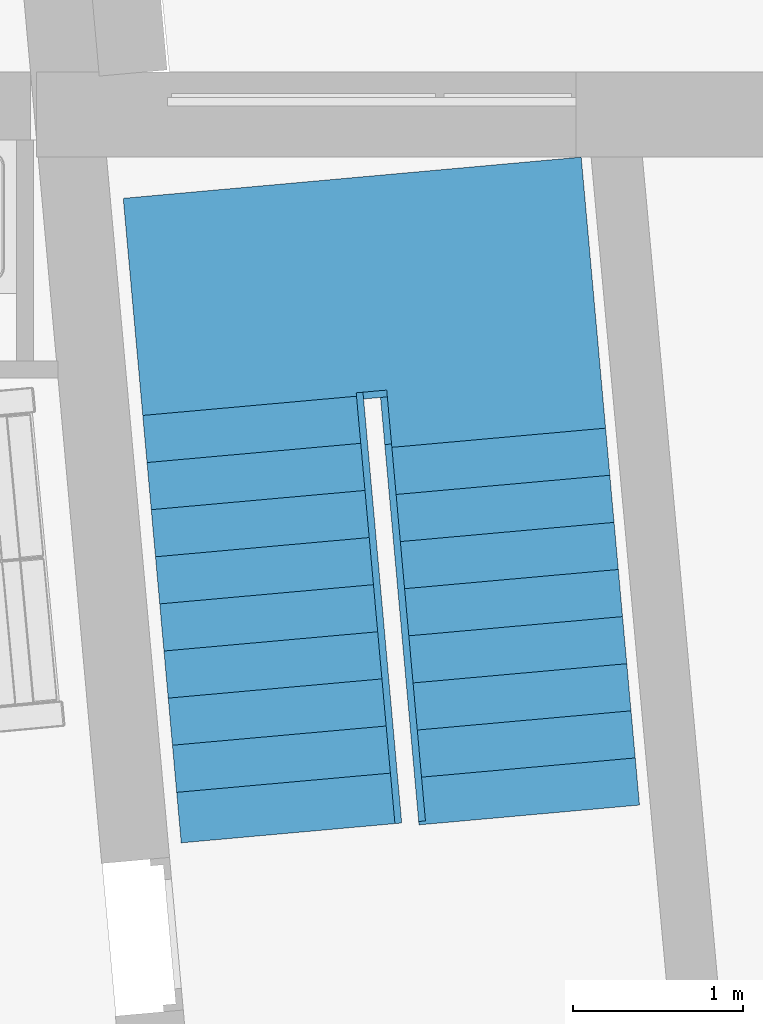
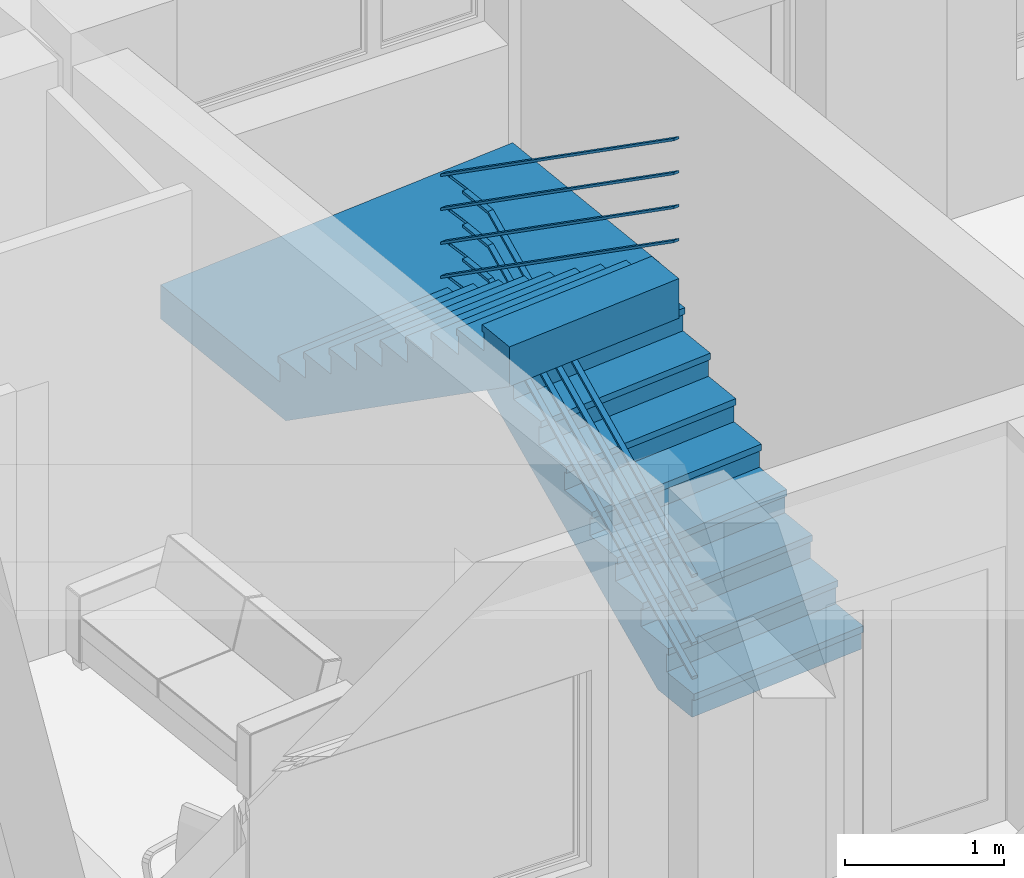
# One storey, part 27 of 36: 1 stair.
"""IFC2X3 building model written with IfcOpenShell, lengths in millimetres."""

from ifc_helpers import new_model, entity, si_unit, converted_unit, money_unit, direction, frame, origin_with_axes, place, context, subcontext, project, spatial, faceted_brep, material, element, save


model = new_model("IFC2X3")

# Units and contexts
model_context = context("Model", 3, precision=1e-05, world=origin_with_axes(), true_north=direction((0.0, 1.0)))
body_context = subcontext(model_context, "Body", "Model", "MODEL_VIEW")
ifc_project = project(units=[si_unit("LENGTHUNIT", "METRE", prefix="MILLI"), si_unit("AREAUNIT", "SQUARE_METRE"), si_unit("VOLUMEUNIT", "CUBIC_METRE"), converted_unit("PLANEANGLEUNIT", "DEGREE", entity("IfcPlaneAngleMeasure", 0.0174532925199), si_unit("PLANEANGLEUNIT", "RADIAN"), dimensions=[0, 0, 0, 0, 0, 0, 0]), si_unit("SOLIDANGLEUNIT", "STERADIAN"), money_unit("USD"), converted_unit("TIMEUNIT", "Year", entity("IfcTimeMeasure", 31556926.0), si_unit("TIMEUNIT", "SECOND"), dimensions=[0, 0, 0, 0, 0, 0, 0]), si_unit("MASSUNIT", "GRAM"), si_unit("THERMODYNAMICTEMPERATUREUNIT", "DEGREE_CELSIUS"), si_unit("LUMINOUSINTENSITYUNIT", "LUMEN")], contexts=[model_context])

# Site, building, storey
site_placement = place(None, origin_with_axes())
site = spatial("IfcSite", under=ifc_project, at=site_placement, Name="Site", CompositionType="ELEMENT")
building_placement = place(site_placement, origin_with_axes())
building = spatial("IfcBuilding", under=site, at=building_placement, Name="Building", CompositionType="ELEMENT")
storey_placement = place(building_placement, frame((0.0, 0.0, -3400.0), z_axis=(0.0, 0.0, 1.0), x_axis=(1.0, 0.0, 0.0)))
storey = spatial("IfcBuildingStorey", under=building, at=storey_placement, Name="1KORRUS", CompositionType="ELEMENT", Elevation=-3400.0)

# Stair
ifc_material = material(Name="50 %")
stair_placement = place(storey_placement, frame((-51198.3443132, -8924.32051157, 0.0), z_axis=(0.0, 0.0, 1.0), x_axis=(-0.0895981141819, 0.995978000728, 0.0)))
element("IfcStair", 1, at=stair_placement, inside=storey, material=ifc_material, Name="TR1", ObjectType="TR1", ShapeType="TWO_STRAIGHT_RUN_STAIR", context=body_context, shape_type="Brep", body=[
    faceted_brep([(373.459, 0.0, 0.0), (373.459, 1300.0, 0.0), (2564.636, 1300.0, 1440.0), (2564.636, 0.0, 1440.0), (30.0, 0.0, 0.0), (30.0, 1300.0, 0.0), (30.0, 1300.0, 138.889), (307.778, 1300.0, 138.889), (307.778, 1300.0, 327.778), (585.556, 1300.0, 327.778), (585.556, 1300.0, 516.667), (863.333, 1300.0, 516.667), (863.333, 1300.0, 705.556), (1141.111, 1300.0, 705.556), (1141.111, 1300.0, 894.444), (1418.889, 1300.0, 894.444), (1418.889, 1300.0, 1083.333), (1696.667, 1300.0, 1083.333), (1696.667, 1300.0, 1272.222), (1974.444, 1300.0, 1272.222), (1974.444, 1300.0, 1461.111), (2252.222, 1300.0, 1461.111), (2252.222, 1300.0, 1650.0), (2530.0, 1300.0, 1650.0), (3800.0, 1300.0, 1650.0), (3800.0, 1300.0, 1440.0), (3800.0, 0.0, 1440.0), (3800.0, 0.0, 1650.0), (2530.0, 0.0, 1650.0), (2252.222, 0.0, 1650.0), (2252.222, 0.0, 1461.111), (1974.444, 0.0, 1461.111), (1974.444, 0.0, 1272.222), (1696.667, 0.0, 1272.222), (1696.667, 0.0, 1083.333), (1418.889, 0.0, 1083.333), (1418.889, 0.0, 894.444), (1141.111, 0.0, 894.444), (1141.111, 0.0, 705.556), (863.333, 0.0, 705.556), (863.333, 0.0, 516.667), (585.556, 0.0, 516.667), (585.556, 0.0, 327.778), (307.778, 0.0, 327.778), (307.778, 0.0, 138.889), (30.0, 0.0, 138.889)], [[[0, 1, 2, 3]], [[4, 5, 1, 0]], [[1, 5, 6, 7, 8, 9, 10, 11, 12, 13, 14, 15, 16, 17, 18, 19, 20, 21, 22, 23, 24, 25, 2]], [[3, 2, 25, 26]], [[0, 3, 26, 27, 28, 29, 30, 31, 32, 33, 34, 35, 36, 37, 38, 39, 40, 41, 42, 43, 44, 45, 4]], [[45, 6, 5, 4]], [[44, 7, 6, 45]], [[43, 8, 7, 44]], [[42, 9, 8, 43]], [[41, 10, 9, 42]], [[40, 11, 10, 41]], [[39, 12, 11, 40]], [[38, 13, 12, 39]], [[37, 14, 13, 38]], [[36, 15, 14, 37]], [[35, 16, 15, 36]], [[34, 17, 16, 35]], [[33, 18, 17, 34]], [[32, 19, 18, 33]], [[31, 20, 19, 32]], [[30, 21, 20, 31]], [[29, 22, 21, 30]], [[28, 23, 22, 29]], [[27, 24, 23, 28]], [[26, 25, 24, 27]]]),
    faceted_brep([(2500.0, 1300.0, 1650.0), (2500.0, 1400.0, 1650.0), (2500.0, 1400.0, 1440.0), (2500.0, 1300.0, 1440.0), (3800.0, 1300.0, 1650.0), (3800.0, 1400.0, 1650.0), (3800.0, 1400.0, 1440.0), (2564.636, 1400.0, 1440.0), (2564.636, 1300.0, 1440.0), (3800.0, 1300.0, 1440.0)], [[[0, 1, 2, 3]], [[4, 5, 1, 0]], [[1, 5, 6, 7, 2]], [[3, 2, 7, 8]], [[0, 3, 8, 9, 4]], [[9, 6, 5, 4]], [[8, 7, 6, 9]]]),
    faceted_brep([(2500.0, 1400.0, 1650.0), (2500.0, 2700.0, 1650.0), (2500.0, 2700.0, 1440.0), (2500.0, 1400.0, 1440.0), (3800.0, 1400.0, 1650.0), (3800.0, 2700.0, 1650.0), (3800.0, 2700.0, 1440.0), (3800.0, 1400.0, 1440.0)], [[[0, 1, 2, 3]], [[4, 5, 1, 0]], [[1, 5, 6, 2]], [[3, 2, 6, 7]], [[0, 3, 7, 4]], [[7, 6, 5, 4]]]),
    faceted_brep([(2500.0, 1400.0, 1440.0), (2435.364, 1400.0, 1440.0), (2435.364, 2700.0, 1440.0), (2500.0, 2700.0, 1440.0), (2500.0, 1400.0, 1650.0), (2470.0, 1400.0, 1650.0), (2470.0, 1400.0, 1838.889), (2192.222, 1400.0, 1838.889), (2192.222, 1400.0, 2027.778), (1914.444, 1400.0, 2027.778), (1914.444, 1400.0, 2216.667), (1636.667, 1400.0, 2216.667), (1636.667, 1400.0, 2405.556), (1358.889, 1400.0, 2405.556), (1358.889, 1400.0, 2594.444), (1081.111, 1400.0, 2594.444), (1081.111, 1400.0, 2783.333), (803.333, 1400.0, 2783.333), (803.333, 1400.0, 2972.222), (525.556, 1400.0, 2972.222), (525.556, 1400.0, 3161.111), (247.778, 1400.0, 3161.111), (247.778, 1400.0, 3350.0), (0.0, 1400.0, 3350.0), (0.0, 1400.0, 3096.048), (0.0, 2700.0, 3096.048), (0.0, 2700.0, 3350.0), (247.778, 2700.0, 3350.0), (247.778, 2700.0, 3161.111), (525.556, 2700.0, 3161.111), (525.556, 2700.0, 2972.222), (803.333, 2700.0, 2972.222), (803.333, 2700.0, 2783.333), (1081.111, 2700.0, 2783.333), (1081.111, 2700.0, 2594.444), (1358.889, 2700.0, 2594.444), (1358.889, 2700.0, 2405.556), (1636.667, 2700.0, 2405.556), (1636.667, 2700.0, 2216.667), (1914.444, 2700.0, 2216.667), (1914.444, 2700.0, 2027.778), (2192.222, 2700.0, 2027.778), (2192.222, 2700.0, 1838.889), (2470.0, 2700.0, 1838.889), (2470.0, 2700.0, 1650.0), (2500.0, 2700.0, 1650.0)], [[[0, 1, 2, 3]], [[0, 4, 5, 6, 7, 8, 9, 10, 11, 12, 13, 14, 15, 16, 17, 18, 19, 20, 21, 22, 23, 24, 1]], [[1, 24, 25, 2]], [[3, 2, 25, 26, 27, 28, 29, 30, 31, 32, 33, 34, 35, 36, 37, 38, 39, 40, 41, 42, 43, 44, 45]], [[4, 0, 3, 45]], [[5, 4, 45, 44]], [[6, 5, 44, 43]], [[7, 6, 43, 42]], [[8, 7, 42, 41]], [[9, 8, 41, 40]], [[10, 9, 40, 39]], [[11, 10, 39, 38]], [[12, 11, 38, 37]], [[13, 12, 37, 36]], [[14, 13, 36, 35]], [[15, 14, 35, 34]], [[16, 15, 34, 33]], [[17, 16, 33, 32]], [[18, 17, 32, 31]], [[19, 18, 31, 30]], [[20, 19, 30, 29]], [[21, 20, 29, 28]], [[22, 21, 28, 27]], [[23, 22, 27, 26]], [[24, 23, 26, 25]]]),
    faceted_brep([(0.0, 0.0, 0.0), (0.0, 1300.0, 0.0), (30.0, 1300.0, 0.0), (30.0, 0.0, 0.0), (0.0, 0.0, 138.889), (0.0, 1300.0, 138.889), (30.0, 1300.0, 138.889), (30.0, 0.0, 138.889)], [[[0, 1, 2, 3]], [[4, 5, 1, 0]], [[1, 5, 6, 2]], [[3, 2, 6, 7]], [[0, 3, 7, 4]], [[7, 6, 5, 4]]]),
    faceted_brep([(277.778, 0.0, 188.889), (277.778, 1300.0, 188.889), (307.778, 1300.0, 188.889), (307.778, 0.0, 188.889), (277.778, 0.0, 327.778), (277.778, 1300.0, 327.778), (307.778, 1300.0, 327.778), (307.778, 0.0, 327.778)], [[[0, 1, 2, 3]], [[4, 5, 1, 0]], [[1, 5, 6, 2]], [[3, 2, 6, 7]], [[0, 3, 7, 4]], [[7, 6, 5, 4]]]),
    faceted_brep([(555.556, 0.0, 377.778), (555.556, 1300.0, 377.778), (585.556, 1300.0, 377.778), (585.556, 0.0, 377.778), (555.556, 0.0, 516.667), (555.556, 1300.0, 516.667), (585.556, 1300.0, 516.667), (585.556, 0.0, 516.667)], [[[0, 1, 2, 3]], [[4, 5, 1, 0]], [[1, 5, 6, 2]], [[3, 2, 6, 7]], [[0, 3, 7, 4]], [[7, 6, 5, 4]]]),
    faceted_brep([(833.333, 0.0, 566.667), (833.333, 1300.0, 566.667), (863.333, 1300.0, 566.667), (863.333, 0.0, 566.667), (833.333, 0.0, 705.556), (833.333, 1300.0, 705.556), (863.333, 1300.0, 705.556), (863.333, 0.0, 705.556)], [[[0, 1, 2, 3]], [[4, 5, 1, 0]], [[1, 5, 6, 2]], [[3, 2, 6, 7]], [[0, 3, 7, 4]], [[7, 6, 5, 4]]]),
    faceted_brep([(1111.111, 0.0, 755.556), (1111.111, 1300.0, 755.556), (1141.111, 1300.0, 755.556), (1141.111, 0.0, 755.556), (1111.111, 0.0, 894.444), (1111.111, 1300.0, 894.444), (1141.111, 1300.0, 894.444), (1141.111, 0.0, 894.444)], [[[0, 1, 2, 3]], [[4, 5, 1, 0]], [[1, 5, 6, 2]], [[3, 2, 6, 7]], [[0, 3, 7, 4]], [[7, 6, 5, 4]]]),
    faceted_brep([(1388.889, 0.0, 944.444), (1388.889, 1300.0, 944.444), (1418.889, 1300.0, 944.444), (1418.889, 0.0, 944.444), (1388.889, 0.0, 1083.333), (1388.889, 1300.0, 1083.333), (1418.889, 1300.0, 1083.333), (1418.889, 0.0, 1083.333)], [[[0, 1, 2, 3]], [[4, 5, 1, 0]], [[1, 5, 6, 2]], [[3, 2, 6, 7]], [[0, 3, 7, 4]], [[7, 6, 5, 4]]]),
    faceted_brep([(1666.667, 0.0, 1133.333), (1666.667, 1300.0, 1133.333), (1696.667, 1300.0, 1133.333), (1696.667, 0.0, 1133.333), (1666.667, 0.0, 1272.222), (1666.667, 1300.0, 1272.222), (1696.667, 1300.0, 1272.222), (1696.667, 0.0, 1272.222)], [[[0, 1, 2, 3]], [[4, 5, 1, 0]], [[1, 5, 6, 2]], [[3, 2, 6, 7]], [[0, 3, 7, 4]], [[7, 6, 5, 4]]]),
    faceted_brep([(1944.444, 0.0, 1322.222), (1944.444, 1300.0, 1322.222), (1974.444, 1300.0, 1322.222), (1974.444, 0.0, 1322.222), (1944.444, 0.0, 1461.111), (1944.444, 1300.0, 1461.111), (1974.444, 1300.0, 1461.111), (1974.444, 0.0, 1461.111)], [[[0, 1, 2, 3]], [[4, 5, 1, 0]], [[1, 5, 6, 2]], [[3, 2, 6, 7]], [[0, 3, 7, 4]], [[7, 6, 5, 4]]]),
    faceted_brep([(2222.222, 0.0, 1511.111), (2222.222, 1300.0, 1511.111), (2252.222, 1300.0, 1511.111), (2252.222, 0.0, 1511.111), (2222.222, 0.0, 1650.0), (2222.222, 1300.0, 1650.0), (2252.222, 1300.0, 1650.0), (2252.222, 0.0, 1650.0)], [[[0, 1, 2, 3]], [[4, 5, 1, 0]], [[1, 5, 6, 2]], [[3, 2, 6, 7]], [[0, 3, 7, 4]], [[7, 6, 5, 4]]]),
    faceted_brep([(2500.0, 1400.0, 1700.0), (2470.0, 1400.0, 1700.0), (2470.0, 2700.0, 1700.0), (2500.0, 2700.0, 1700.0), (2500.0, 1400.0, 1838.889), (2470.0, 1400.0, 1838.889), (2470.0, 2700.0, 1838.889), (2500.0, 2700.0, 1838.889)], [[[0, 1, 2, 3]], [[0, 4, 5, 1]], [[1, 5, 6, 2]], [[3, 2, 6, 7]], [[4, 0, 3, 7]], [[5, 4, 7, 6]]]),
    faceted_brep([(2222.222, 1400.0, 1888.889), (2192.222, 1400.0, 1888.889), (2192.222, 2700.0, 1888.889), (2222.222, 2700.0, 1888.889), (2222.222, 1400.0, 2027.778), (2192.222, 1400.0, 2027.778), (2192.222, 2700.0, 2027.778), (2222.222, 2700.0, 2027.778)], [[[0, 1, 2, 3]], [[0, 4, 5, 1]], [[1, 5, 6, 2]], [[3, 2, 6, 7]], [[4, 0, 3, 7]], [[5, 4, 7, 6]]]),
    faceted_brep([(1944.444, 1400.0, 2077.778), (1914.444, 1400.0, 2077.778), (1914.444, 2700.0, 2077.778), (1944.444, 2700.0, 2077.778), (1944.444, 1400.0, 2216.667), (1914.444, 1400.0, 2216.667), (1914.444, 2700.0, 2216.667), (1944.444, 2700.0, 2216.667)], [[[0, 1, 2, 3]], [[0, 4, 5, 1]], [[1, 5, 6, 2]], [[3, 2, 6, 7]], [[4, 0, 3, 7]], [[5, 4, 7, 6]]]),
    faceted_brep([(1666.667, 1400.0, 2266.667), (1636.667, 1400.0, 2266.667), (1636.667, 2700.0, 2266.667), (1666.667, 2700.0, 2266.667), (1666.667, 1400.0, 2405.556), (1636.667, 1400.0, 2405.556), (1636.667, 2700.0, 2405.556), (1666.667, 2700.0, 2405.556)], [[[0, 1, 2, 3]], [[0, 4, 5, 1]], [[1, 5, 6, 2]], [[3, 2, 6, 7]], [[4, 0, 3, 7]], [[5, 4, 7, 6]]]),
    faceted_brep([(1388.889, 1400.0, 2455.556), (1358.889, 1400.0, 2455.556), (1358.889, 2700.0, 2455.556), (1388.889, 2700.0, 2455.556), (1388.889, 1400.0, 2594.444), (1358.889, 1400.0, 2594.444), (1358.889, 2700.0, 2594.444), (1388.889, 2700.0, 2594.444)], [[[0, 1, 2, 3]], [[0, 4, 5, 1]], [[1, 5, 6, 2]], [[3, 2, 6, 7]], [[4, 0, 3, 7]], [[5, 4, 7, 6]]]),
    faceted_brep([(1111.111, 1400.0, 2644.444), (1081.111, 1400.0, 2644.444), (1081.111, 2700.0, 2644.444), (1111.111, 2700.0, 2644.444), (1111.111, 1400.0, 2783.333), (1081.111, 1400.0, 2783.333), (1081.111, 2700.0, 2783.333), (1111.111, 2700.0, 2783.333)], [[[0, 1, 2, 3]], [[0, 4, 5, 1]], [[1, 5, 6, 2]], [[3, 2, 6, 7]], [[4, 0, 3, 7]], [[5, 4, 7, 6]]]),
    faceted_brep([(833.333, 1400.0, 2833.333), (803.333, 1400.0, 2833.333), (803.333, 2700.0, 2833.333), (833.333, 2700.0, 2833.333), (833.333, 1400.0, 2972.222), (803.333, 1400.0, 2972.222), (803.333, 2700.0, 2972.222), (833.333, 2700.0, 2972.222)], [[[0, 1, 2, 3]], [[0, 4, 5, 1]], [[1, 5, 6, 2]], [[3, 2, 6, 7]], [[4, 0, 3, 7]], [[5, 4, 7, 6]]]),
    faceted_brep([(555.556, 1400.0, 3022.222), (525.556, 1400.0, 3022.222), (525.556, 2700.0, 3022.222), (555.556, 2700.0, 3022.222), (555.556, 1400.0, 3161.111), (525.556, 1400.0, 3161.111), (525.556, 2700.0, 3161.111), (555.556, 2700.0, 3161.111)], [[[0, 1, 2, 3]], [[0, 4, 5, 1]], [[1, 5, 6, 2]], [[3, 2, 6, 7]], [[4, 0, 3, 7]], [[5, 4, 7, 6]]]),
    faceted_brep([(277.778, 1400.0, 3211.111), (247.778, 1400.0, 3211.111), (247.778, 2700.0, 3211.111), (277.778, 2700.0, 3211.111), (277.778, 1400.0, 3350.0), (247.778, 1400.0, 3350.0), (247.778, 2700.0, 3350.0), (277.778, 2700.0, 3350.0)], [[[0, 1, 2, 3]], [[0, 4, 5, 1]], [[1, 5, 6, 2]], [[3, 2, 6, 7]], [[4, 0, 3, 7]], [[5, 4, 7, 6]]]),
    faceted_brep([(-20.0, 0.0, 138.889), (-20.0, 1300.0, 138.889), (307.778, 1300.0, 138.889), (307.778, 0.0, 138.889), (-20.0, 0.0, 188.889), (-20.0, 1300.0, 188.889), (307.778, 1300.0, 188.889), (307.778, 0.0, 188.889)], [[[0, 1, 2, 3]], [[4, 5, 1, 0]], [[1, 5, 6, 2]], [[3, 2, 6, 7]], [[0, 3, 7, 4]], [[7, 6, 5, 4]]]),
    faceted_brep([(257.778, 0.0, 327.778), (257.778, 1300.0, 327.778), (585.556, 1300.0, 327.778), (585.556, 0.0, 327.778), (257.778, 0.0, 377.778), (257.778, 1300.0, 377.778), (585.556, 1300.0, 377.778), (585.556, 0.0, 377.778)], [[[0, 1, 2, 3]], [[4, 5, 1, 0]], [[1, 5, 6, 2]], [[3, 2, 6, 7]], [[0, 3, 7, 4]], [[7, 6, 5, 4]]]),
    faceted_brep([(535.556, 0.0, 516.667), (535.556, 1300.0, 516.667), (863.333, 1300.0, 516.667), (863.333, 0.0, 516.667), (535.556, 0.0, 566.667), (535.556, 1300.0, 566.667), (863.333, 1300.0, 566.667), (863.333, 0.0, 566.667)], [[[0, 1, 2, 3]], [[4, 5, 1, 0]], [[1, 5, 6, 2]], [[3, 2, 6, 7]], [[0, 3, 7, 4]], [[7, 6, 5, 4]]]),
    faceted_brep([(813.333, 0.0, 705.556), (813.333, 1300.0, 705.556), (1141.111, 1300.0, 705.556), (1141.111, 0.0, 705.556), (813.333, 0.0, 755.556), (813.333, 1300.0, 755.556), (1141.111, 1300.0, 755.556), (1141.111, 0.0, 755.556)], [[[0, 1, 2, 3]], [[4, 5, 1, 0]], [[1, 5, 6, 2]], [[3, 2, 6, 7]], [[0, 3, 7, 4]], [[7, 6, 5, 4]]]),
    faceted_brep([(1091.111, 0.0, 894.444), (1091.111, 1300.0, 894.444), (1418.889, 1300.0, 894.444), (1418.889, 0.0, 894.444), (1091.111, 0.0, 944.444), (1091.111, 1300.0, 944.444), (1418.889, 1300.0, 944.444), (1418.889, 0.0, 944.444)], [[[0, 1, 2, 3]], [[4, 5, 1, 0]], [[1, 5, 6, 2]], [[3, 2, 6, 7]], [[0, 3, 7, 4]], [[7, 6, 5, 4]]]),
    faceted_brep([(1368.889, 0.0, 1083.333), (1368.889, 1300.0, 1083.333), (1696.667, 1300.0, 1083.333), (1696.667, 0.0, 1083.333), (1368.889, 0.0, 1133.333), (1368.889, 1300.0, 1133.333), (1696.667, 1300.0, 1133.333), (1696.667, 0.0, 1133.333)], [[[0, 1, 2, 3]], [[4, 5, 1, 0]], [[1, 5, 6, 2]], [[3, 2, 6, 7]], [[0, 3, 7, 4]], [[7, 6, 5, 4]]]),
    faceted_brep([(1646.667, 0.0, 1272.222), (1646.667, 1300.0, 1272.222), (1974.444, 1300.0, 1272.222), (1974.444, 0.0, 1272.222), (1646.667, 0.0, 1322.222), (1646.667, 1300.0, 1322.222), (1974.444, 1300.0, 1322.222), (1974.444, 0.0, 1322.222)], [[[0, 1, 2, 3]], [[4, 5, 1, 0]], [[1, 5, 6, 2]], [[3, 2, 6, 7]], [[0, 3, 7, 4]], [[7, 6, 5, 4]]]),
    faceted_brep([(1924.444, 0.0, 1461.111), (1924.444, 1300.0, 1461.111), (2252.222, 1300.0, 1461.111), (2252.222, 0.0, 1461.111), (1924.444, 0.0, 1511.111), (1924.444, 1300.0, 1511.111), (2252.222, 1300.0, 1511.111), (2252.222, 0.0, 1511.111)], [[[0, 1, 2, 3]], [[4, 5, 1, 0]], [[1, 5, 6, 2]], [[3, 2, 6, 7]], [[0, 3, 7, 4]], [[7, 6, 5, 4]]]),
    faceted_brep([(2202.222, 0.0, 1650.0), (2202.222, 1300.0, 1650.0), (2500.0, 1300.0, 1650.0), (2500.0, 0.0, 1650.0), (2202.222, 0.0, 1700.0), (2202.222, 1300.0, 1700.0), (2500.0, 1300.0, 1700.0), (2500.0, 0.0, 1700.0)], [[[0, 1, 2, 3]], [[4, 5, 1, 0]], [[1, 5, 6, 2]], [[3, 2, 6, 7]], [[0, 3, 7, 4]], [[7, 6, 5, 4]]]),
    faceted_brep([(3800.0, 0.0, 1650.0), (3800.0, 1400.0, 1650.0), (3800.0, 1400.0, 1700.0), (3800.0, 0.0, 1700.0), (2500.0, 0.0, 1650.0), (2500.0, 1400.0, 1650.0), (2500.0, 1400.0, 1700.0), (2500.0, 0.0, 1700.0)], [[[0, 1, 2, 3]], [[4, 5, 1, 0]], [[1, 5, 6, 2]], [[3, 2, 6, 7]], [[0, 3, 7, 4]], [[7, 6, 5, 4]]]),
    faceted_brep([(3800.0, 1400.0, 1650.0), (3800.0, 2700.0, 1650.0), (3800.0, 2700.0, 1700.0), (3800.0, 1400.0, 1700.0), (2470.0, 1400.0, 1650.0), (2470.0, 2700.0, 1650.0), (2470.0, 2700.0, 1700.0), (2470.0, 1400.0, 1700.0)], [[[0, 1, 2, 3]], [[4, 5, 1, 0]], [[1, 5, 6, 2]], [[3, 2, 6, 7]], [[0, 3, 7, 4]], [[7, 6, 5, 4]]]),
    faceted_brep([(2520.0, 1400.0, 1838.889), (2192.222, 1400.0, 1838.889), (2192.222, 2700.0, 1838.889), (2520.0, 2700.0, 1838.889), (2520.0, 1400.0, 1888.889), (2192.222, 1400.0, 1888.889), (2192.222, 2700.0, 1888.889), (2520.0, 2700.0, 1888.889)], [[[0, 1, 2, 3]], [[0, 4, 5, 1]], [[1, 5, 6, 2]], [[3, 2, 6, 7]], [[4, 0, 3, 7]], [[5, 4, 7, 6]]]),
    faceted_brep([(2242.222, 1400.0, 2027.778), (1914.444, 1400.0, 2027.778), (1914.444, 2700.0, 2027.778), (2242.222, 2700.0, 2027.778), (2242.222, 1400.0, 2077.778), (1914.444, 1400.0, 2077.778), (1914.444, 2700.0, 2077.778), (2242.222, 2700.0, 2077.778)], [[[0, 1, 2, 3]], [[0, 4, 5, 1]], [[1, 5, 6, 2]], [[3, 2, 6, 7]], [[4, 0, 3, 7]], [[5, 4, 7, 6]]]),
    faceted_brep([(1964.444, 1400.0, 2216.667), (1636.667, 1400.0, 2216.667), (1636.667, 2700.0, 2216.667), (1964.444, 2700.0, 2216.667), (1964.444, 1400.0, 2266.667), (1636.667, 1400.0, 2266.667), (1636.667, 2700.0, 2266.667), (1964.444, 2700.0, 2266.667)], [[[0, 1, 2, 3]], [[0, 4, 5, 1]], [[1, 5, 6, 2]], [[3, 2, 6, 7]], [[4, 0, 3, 7]], [[5, 4, 7, 6]]]),
    faceted_brep([(1686.667, 1400.0, 2405.556), (1358.889, 1400.0, 2405.556), (1358.889, 2700.0, 2405.556), (1686.667, 2700.0, 2405.556), (1686.667, 1400.0, 2455.556), (1358.889, 1400.0, 2455.556), (1358.889, 2700.0, 2455.556), (1686.667, 2700.0, 2455.556)], [[[0, 1, 2, 3]], [[0, 4, 5, 1]], [[1, 5, 6, 2]], [[3, 2, 6, 7]], [[4, 0, 3, 7]], [[5, 4, 7, 6]]]),
    faceted_brep([(1408.889, 1400.0, 2594.444), (1081.111, 1400.0, 2594.444), (1081.111, 2700.0, 2594.444), (1408.889, 2700.0, 2594.444), (1408.889, 1400.0, 2644.444), (1081.111, 1400.0, 2644.444), (1081.111, 2700.0, 2644.444), (1408.889, 2700.0, 2644.444)], [[[0, 1, 2, 3]], [[0, 4, 5, 1]], [[1, 5, 6, 2]], [[3, 2, 6, 7]], [[4, 0, 3, 7]], [[5, 4, 7, 6]]]),
    faceted_brep([(1131.111, 1400.0, 2783.333), (803.333, 1400.0, 2783.333), (803.333, 2700.0, 2783.333), (1131.111, 2700.0, 2783.333), (1131.111, 1400.0, 2833.333), (803.333, 1400.0, 2833.333), (803.333, 2700.0, 2833.333), (1131.111, 2700.0, 2833.333)], [[[0, 1, 2, 3]], [[0, 4, 5, 1]], [[1, 5, 6, 2]], [[3, 2, 6, 7]], [[4, 0, 3, 7]], [[5, 4, 7, 6]]]),
    faceted_brep([(853.333, 1400.0, 2972.222), (525.556, 1400.0, 2972.222), (525.556, 2700.0, 2972.222), (853.333, 2700.0, 2972.222), (853.333, 1400.0, 3022.222), (525.556, 1400.0, 3022.222), (525.556, 2700.0, 3022.222), (853.333, 2700.0, 3022.222)], [[[0, 1, 2, 3]], [[0, 4, 5, 1]], [[1, 5, 6, 2]], [[3, 2, 6, 7]], [[4, 0, 3, 7]], [[5, 4, 7, 6]]]),
    faceted_brep([(575.556, 1400.0, 3161.111), (247.778, 1400.0, 3161.111), (247.778, 2700.0, 3161.111), (575.556, 2700.0, 3161.111), (575.556, 1400.0, 3211.111), (247.778, 1400.0, 3211.111), (247.778, 2700.0, 3211.111), (575.556, 2700.0, 3211.111)], [[[0, 1, 2, 3]], [[0, 4, 5, 1]], [[1, 5, 6, 2]], [[3, 2, 6, 7]], [[4, 0, 3, 7]], [[5, 4, 7, 6]]]),
    faceted_brep([(297.778, 1400.0, 3350.0), (0.0, 1400.0, 3350.0), (0.0, 2700.0, 3350.0), (297.778, 2700.0, 3350.0), (297.778, 1400.0, 3400.0), (0.0, 1400.0, 3400.0), (0.0, 2700.0, 3400.0), (297.778, 2700.0, 3400.0)], [[[0, 1, 2, 3]], [[0, 4, 5, 1]], [[1, 5, 6, 2]], [[3, 2, 6, 7]], [[4, 0, 3, 7]], [[5, 4, 7, 6]]]),
    faceted_brep([(0.0, 1260.0, 288.889), (0.0, 1300.0, 288.889), (2222.222, 1300.0, 1800.0), (2222.222, 1260.0, 1800.0), (0.0, 1260.0, 308.889), (0.0, 1300.0, 308.889), (2222.222, 1300.0, 1820.0), (2222.222, 1260.0, 1820.0)], [[[0, 1, 2, 3]], [[4, 5, 1, 0]], [[1, 5, 6, 2]], [[3, 2, 6, 7]], [[0, 3, 7, 4]], [[7, 6, 5, 4]]]),
    faceted_brep([(0.0, 1260.0, 548.889), (0.0, 1300.0, 548.889), (2222.222, 1300.0, 2060.0), (2222.222, 1260.0, 2060.0), (0.0, 1260.0, 568.889), (0.0, 1300.0, 568.889), (2222.222, 1300.0, 2080.0), (2222.222, 1260.0, 2080.0)], [[[0, 1, 2, 3]], [[4, 5, 1, 0]], [[1, 5, 6, 2]], [[3, 2, 6, 7]], [[0, 3, 7, 4]], [[7, 6, 5, 4]]]),
    faceted_brep([(0.0, 1260.0, 808.889), (0.0, 1300.0, 808.889), (2222.222, 1300.0, 2320.0), (2222.222, 1260.0, 2320.0), (0.0, 1260.0, 828.889), (0.0, 1300.0, 828.889), (2222.222, 1300.0, 2340.0), (2222.222, 1260.0, 2340.0)], [[[0, 1, 2, 3]], [[4, 5, 1, 0]], [[1, 5, 6, 2]], [[3, 2, 6, 7]], [[0, 3, 7, 4]], [[7, 6, 5, 4]]]),
    faceted_brep([(0.0, 1260.0, 1068.889), (0.0, 1300.0, 1068.889), (2222.222, 1300.0, 2580.0), (2222.222, 1260.0, 2580.0), (0.0, 1260.0, 1088.889), (0.0, 1300.0, 1088.889), (2222.222, 1300.0, 2600.0), (2222.222, 1260.0, 2600.0)], [[[0, 1, 2, 3]], [[4, 5, 1, 0]], [[1, 5, 6, 2]], [[3, 2, 6, 7]], [[0, 3, 7, 4]], [[7, 6, 5, 4]]]),
    faceted_brep([(2222.222, 1260.0, 1800.0), (2222.222, 1260.0, 1820.0), (2222.222, 1300.0, 1820.0), (2222.222, 1300.0, 1800.0), (2500.0, 1260.0, 1800.0), (2500.0, 1260.0, 1820.0), (2500.0, 1300.0, 1820.0), (2500.0, 1300.0, 1800.0)], [[[0, 1, 2, 3]], [[4, 5, 1, 0]], [[1, 5, 6, 2]], [[3, 2, 6, 7]], [[0, 3, 7, 4]], [[7, 6, 5, 4]]]),
    faceted_brep([(2222.222, 1260.0, 2060.0), (2222.222, 1260.0, 2080.0), (2222.222, 1300.0, 2080.0), (2222.222, 1300.0, 2060.0), (2500.0, 1260.0, 2060.0), (2500.0, 1260.0, 2080.0), (2500.0, 1300.0, 2080.0), (2500.0, 1300.0, 2060.0)], [[[0, 1, 2, 3]], [[4, 5, 1, 0]], [[1, 5, 6, 2]], [[3, 2, 6, 7]], [[0, 3, 7, 4]], [[7, 6, 5, 4]]]),
    faceted_brep([(2222.222, 1260.0, 2320.0), (2222.222, 1260.0, 2340.0), (2222.222, 1300.0, 2340.0), (2222.222, 1300.0, 2320.0), (2500.0, 1260.0, 2320.0), (2500.0, 1260.0, 2340.0), (2500.0, 1300.0, 2340.0), (2500.0, 1300.0, 2320.0)], [[[0, 1, 2, 3]], [[4, 5, 1, 0]], [[1, 5, 6, 2]], [[3, 2, 6, 7]], [[0, 3, 7, 4]], [[7, 6, 5, 4]]]),
    faceted_brep([(2222.222, 1260.0, 2580.0), (2222.222, 1260.0, 2600.0), (2222.222, 1300.0, 2600.0), (2222.222, 1300.0, 2580.0), (2500.0, 1260.0, 2580.0), (2500.0, 1260.0, 2600.0), (2500.0, 1300.0, 2600.0), (2500.0, 1300.0, 2580.0)], [[[0, 1, 2, 3]], [[4, 5, 1, 0]], [[1, 5, 6, 2]], [[3, 2, 6, 7]], [[0, 3, 7, 4]], [[7, 6, 5, 4]]]),
    faceted_brep([(2540.0, 1260.0, 1800.0), (2500.0, 1260.0, 1800.0), (2500.0, 1400.0, 1961.689), (2540.0, 1400.0, 1961.689), (2540.0, 1260.0, 1820.0), (2500.0, 1260.0, 1820.0), (2500.0, 1400.0, 1981.689), (2540.0, 1400.0, 1981.689)], [[[0, 1, 2, 3]], [[4, 5, 1, 0]], [[1, 5, 6, 2]], [[3, 2, 6, 7]], [[0, 3, 7, 4]], [[7, 6, 5, 4]]]),
    faceted_brep([(2540.0, 1260.0, 2060.0), (2500.0, 1260.0, 2060.0), (2500.0, 1400.0, 2221.689), (2540.0, 1400.0, 2221.689), (2540.0, 1260.0, 2080.0), (2500.0, 1260.0, 2080.0), (2500.0, 1400.0, 2241.689), (2540.0, 1400.0, 2241.689)], [[[0, 1, 2, 3]], [[4, 5, 1, 0]], [[1, 5, 6, 2]], [[3, 2, 6, 7]], [[0, 3, 7, 4]], [[7, 6, 5, 4]]]),
    faceted_brep([(2540.0, 1260.0, 2320.0), (2500.0, 1260.0, 2320.0), (2500.0, 1400.0, 2481.689), (2540.0, 1400.0, 2481.689), (2540.0, 1260.0, 2340.0), (2500.0, 1260.0, 2340.0), (2500.0, 1400.0, 2501.689), (2540.0, 1400.0, 2501.689)], [[[0, 1, 2, 3]], [[4, 5, 1, 0]], [[1, 5, 6, 2]], [[3, 2, 6, 7]], [[0, 3, 7, 4]], [[7, 6, 5, 4]]]),
    faceted_brep([(2540.0, 1260.0, 2580.0), (2500.0, 1260.0, 2580.0), (2500.0, 1400.0, 2741.689), (2540.0, 1400.0, 2741.689), (2540.0, 1260.0, 2600.0), (2500.0, 1260.0, 2600.0), (2500.0, 1400.0, 2761.689), (2540.0, 1400.0, 2761.689)], [[[0, 1, 2, 3]], [[4, 5, 1, 0]], [[1, 5, 6, 2]], [[3, 2, 6, 7]], [[0, 3, 7, 4]], [[7, 6, 5, 4]]]),
    faceted_brep([(2540.0, 1440.0, 1961.689), (2540.0, 1400.0, 1961.689), (0.0, 1400.0, 3688.889), (0.0, 1440.0, 3688.889), (2540.0, 1440.0, 1981.689), (2540.0, 1400.0, 1981.689), (0.0, 1400.0, 3708.889), (0.0, 1440.0, 3708.889)], [[[0, 1, 2, 3]], [[4, 5, 1, 0]], [[1, 5, 6, 2]], [[3, 2, 6, 7]], [[0, 3, 7, 4]], [[7, 6, 5, 4]]]),
    faceted_brep([(2540.0, 1440.0, 2221.689), (2540.0, 1400.0, 2221.689), (0.0, 1400.0, 3948.889), (0.0, 1440.0, 3948.889), (2540.0, 1440.0, 2241.689), (2540.0, 1400.0, 2241.689), (0.0, 1400.0, 3968.889), (0.0, 1440.0, 3968.889)], [[[0, 1, 2, 3]], [[4, 5, 1, 0]], [[1, 5, 6, 2]], [[3, 2, 6, 7]], [[0, 3, 7, 4]], [[7, 6, 5, 4]]]),
    faceted_brep([(2540.0, 1440.0, 2481.689), (2540.0, 1400.0, 2481.689), (0.0, 1400.0, 4208.889), (0.0, 1440.0, 4208.889), (2540.0, 1440.0, 2501.689), (2540.0, 1400.0, 2501.689), (0.0, 1400.0, 4228.889), (0.0, 1440.0, 4228.889)], [[[0, 1, 2, 3]], [[4, 5, 1, 0]], [[1, 5, 6, 2]], [[3, 2, 6, 7]], [[0, 3, 7, 4]], [[7, 6, 5, 4]]]),
    faceted_brep([(2540.0, 1440.0, 2741.689), (2540.0, 1400.0, 2741.689), (0.0, 1400.0, 4468.889), (0.0, 1440.0, 4468.889), (2540.0, 1440.0, 2761.689), (2540.0, 1400.0, 2761.689), (0.0, 1400.0, 4488.889), (0.0, 1440.0, 4488.889)], [[[0, 1, 2, 3]], [[4, 5, 1, 0]], [[1, 5, 6, 2]], [[3, 2, 6, 7]], [[0, 3, 7, 4]], [[7, 6, 5, 4]]]),
])

save(model, "model.ifc")
